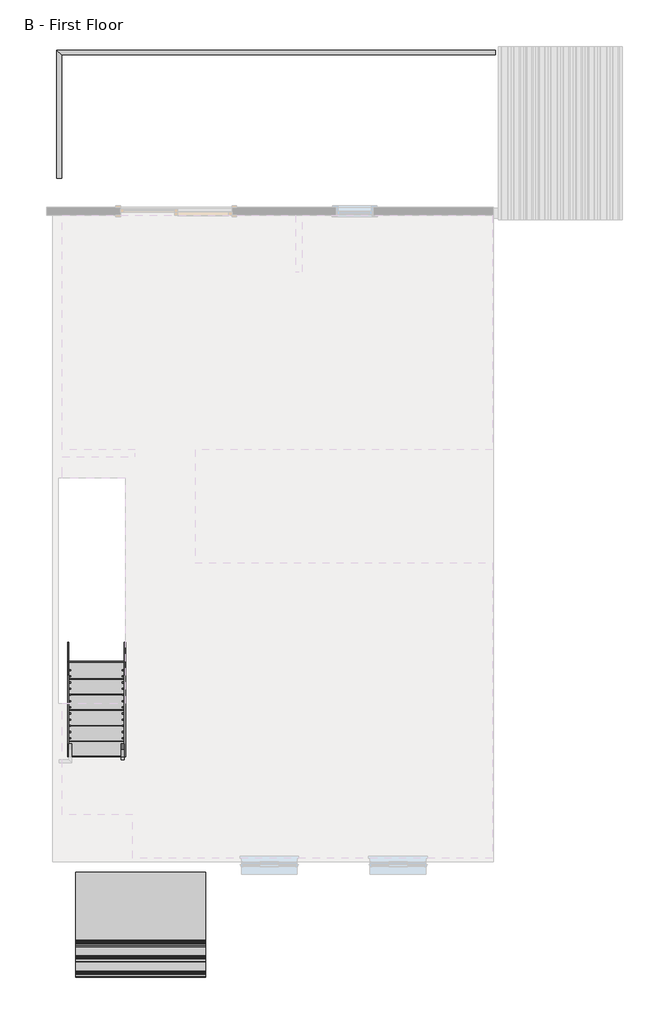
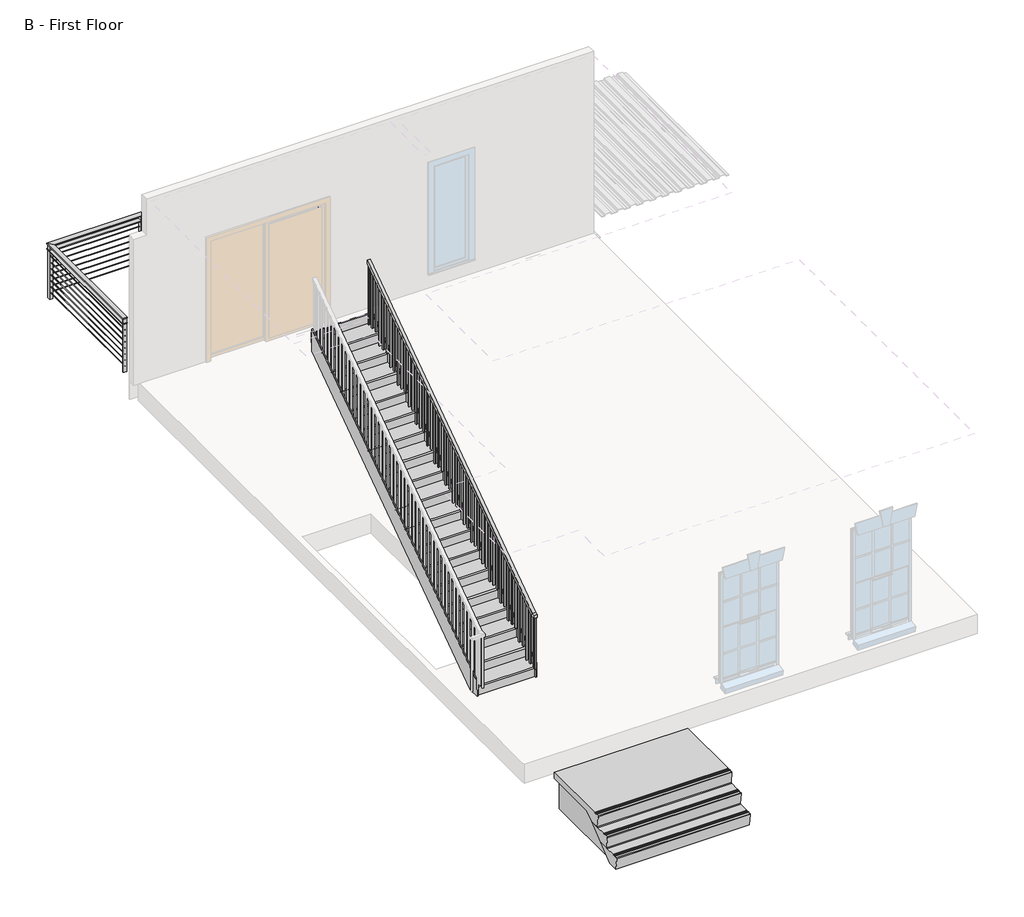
# One storey, part 2 of 2: 2 members, 2 railings, 1 proxy, 1 stair flight.
"""IFC4 building model written with IfcOpenShell, lengths in millimetres."""

from ifc_helpers import new_model, si_unit, frame, origin, place, context, project, spatial, polyline, circle_curve, ellipse_curve, outline, extrude, faceted_brep, transform, mapped, element, save
from ifc_brep_helpers import plane_surface, cylinder_surface, advanced_brep
from components import precast_porch_and_stair_11277_precast_porch_and_stair_11277_55bbf17a, stair_flight_afca3383

model = new_model("IFC4")

# Units and contexts
model_context = context("Model", 3, world=origin())
ifc_project = project(units=[si_unit("LENGTHUNIT", "METRE", prefix="MILLI")], contexts=[model_context])

# Site, building, storey
site = spatial("IfcSite", under=ifc_project)
building = spatial("IfcBuilding", under=site)
storey = spatial("IfcBuildingStorey", under=building, Name="B - First Floor", Elevation=609.6)

# Proxy
placement = place(None, origin())
precast_porch_and_stair_11277_precast_porch_and_stair_11277_shape = precast_porch_and_stair_11277_precast_porch_and_stair_11277_55bbf17a(model_context)
element("IfcBuildingElementProxy", 1, Name="Precast_Porch_and_Stair_11277 : Precast_Porch_and_Stair_11277", ObjectType="Precast_Porch_and_Stair_11277 : Precast_Porch_and_Stair_11277", at=placement, inside=storey, context=model_context, shape_type="MappedRepresentation", body=[
    mapped(precast_porch_and_stair_11277_precast_porch_and_stair_11277_shape, transform((-2607.4233509, -7354.5289462, -152.4), x_axis=(0.0, -1.0, 0.0), y_axis=(1.0, 0.0, 0.0), z_axis=(0.0, 0.0, 1.0))),
])

# Members
element("IfcMember", 2, ObjectType="Stringer - Paint - 3/4\" Width", at=placement, inside=storey, context=model_context, shape_type="SweptSolid", body=[
    extrude(outline(polyline([(-5459.0539462, 628.65), (-5459.0539462, 866.5557145), (-887.0539462, 4060.939925), (-887.0539462, 3689.1139533), (-5267.3790017, 628.65), (-5459.0539462, 628.65)])), frame((-3811.1129486, 0.0, 0.0), z_axis=(1.0, 0.0, 0.0), x_axis=(0.0, 1.0, 0.0)), (0.0, 0.0, 1.0), 19.05),
])
element("IfcMember", 3, ObjectType="Stringer - Paint - 3/4\" Width", at=placement, inside=storey, context=model_context, shape_type="SweptSolid", body=[
    extrude(outline(polyline([(-5459.0539462, 628.65), (-5459.0539462, 866.5557145), (-887.0539462, 4060.939925), (-887.0539462, 3689.1139533), (-5267.3790017, 628.65), (-5459.0539462, 628.65)])), frame((-2877.6629486, 0.0, 0.0), z_axis=(1.0, 0.0, 0.0), x_axis=(0.0, 1.0, 0.0)), (0.0, 0.0, 1.0), 19.05),
])

# Railings
element("IfcRailing", 4, ObjectType="36\"", at=placement, inside=storey, context=model_context, shape_type="SolidModel", body=[
    faceted_brep([(3214.9052966, 6066.1960538, 1308.1), (3214.9052966, 6066.1960538, 1295.4), (3214.9052966, 6142.3960538, 1295.4), (3214.9052966, 6142.3960538, 1308.1), (-3985.9947034, 6142.3960538, 1295.4), (-3985.9947034, 6142.3960538, 1308.1), (-3909.7947034, 6066.1960538, 1308.1), (-3909.7947034, 4040.5460538, 1308.1), (-3985.9947034, 4040.5460538, 1308.1), (-3985.9947034, 4040.5460538, 1295.4), (-3909.7947034, 4040.5460538, 1295.4), (-3909.7947034, 6066.1960538, 1295.4)], [[[0, 1, 2, 3]], [[3, 2, 4, 5]], [[0, 3, 5, 6]], [[7, 8, 9, 10]], [[5, 4, 9, 8]], [[6, 5, 8, 7]], [[1, 0, 6, 11]], [[2, 1, 11, 4]], [[11, 6, 7, 10]], [[4, 11, 10, 9]]]),
    faceted_brep([(3214.9052966, 6142.3960538, 1219.2), (3214.9052966, 6066.1960538, 1219.2), (3214.9052966, 6066.1960538, 1206.5), (3214.9052966, 6142.3960538, 1206.5), (-3985.9947034, 6142.3960538, 1219.2), (-3909.7947034, 6066.1960538, 1219.2), (-3909.7947034, 6066.1960538, 1206.5), (-3985.9947034, 4040.5460538, 1219.2), (-3985.9947034, 4040.5460538, 1206.5), (-3909.7947034, 4040.5460538, 1206.5), (-3909.7947034, 4040.5460538, 1219.2), (-3985.9947034, 6142.3960538, 1206.5)], [[[0, 1, 2, 3]], [[1, 0, 4, 5]], [[2, 1, 5, 6]], [[7, 8, 9, 10]], [[5, 4, 7, 10]], [[6, 5, 10, 9]], [[3, 2, 6, 11]], [[0, 3, 11, 4]], [[11, 6, 9, 8]], [[4, 11, 8, 7]]]),
    advanced_brep(
    [(3214.9052966, 6101.1210538, 1104.9), (3214.9052966, 6107.4710538, 1104.9), (-3944.7197034, 4040.5460538, 1104.9), (-3951.0697034, 4040.5460538, 1104.9), (-3944.7197034, 6101.1210538, 1104.9), (-3951.0697034, 6107.4710538, 1104.9)],
    [
        (0, 1, circle_curve(frame((3214.9052966, 6104.2960538, 1104.9), z_axis=(1.0, 0.0, 0.0), x_axis=(0.0, 1.0, 0.0)), 3.175)),
        (1, 0, circle_curve(frame((3214.9052966, 6104.2960538, 1104.9), z_axis=(1.0, 0.0, 0.0), x_axis=(0.0, 1.0, 0.0)), 3.175)),
        (2, 3, circle_curve(frame((-3947.8947034, 4040.5460538, 1104.9), z_axis=(0.0, -1.0, 0.0), x_axis=(-1.0, 0.0, 0.0)), 3.175)),
        (3, 2, circle_curve(frame((-3947.8947034, 4040.5460538, 1104.9), z_axis=(0.0, -1.0, 0.0), x_axis=(-1.0, 0.0, 0.0)), 3.175)),
        (0, 4),
        (4, 5, ellipse_curve(frame((-3947.8947034, 6104.2960538, 1104.9), z_axis=(0.7071067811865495, 0.7071067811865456, 0.0), x_axis=(0.7071067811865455, -0.7071067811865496, 0.0)), 4.4901281, 3.175)),
        (5, 1),
        (5, 4, ellipse_curve(frame((-3947.8947034, 6104.2960538, 1104.9), z_axis=(0.7071067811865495, 0.7071067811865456, 0.0), x_axis=(0.7071067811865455, -0.7071067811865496, 0.0)), 4.4901281, 3.175)),
        (4, 2),
        (3, 5),
    ],
    [
        plane_surface(frame((3214.9052966, 6104.2960538, 1104.9), z_axis=(1.0, 0.0, 0.0), x_axis=(0.0, -1.0, 0.0))),
        plane_surface(frame((-3947.8947034, 4040.5460538, 1104.9), z_axis=(0.0, -1.0, 0.0), x_axis=(0.0, 0.0, -1.0))),
        cylinder_surface(frame((3214.9052966, 6104.2960538, 1104.9), z_axis=(1.0, 0.0, 0.0), x_axis=(0.0, 1.0, 0.0)), 3.175),
        cylinder_surface(frame((-3947.8947034, 6104.2960538, 1104.9), z_axis=(0.0, 1.0, 0.0), x_axis=(-1.0, 0.0, 0.0)), 3.175),
    ],
    [
        (0, [[1, 2]]),
        (1, [[3, 4]]),
        (2, [[-1, 5, 6, 7]]),
        (2, [[-2, -7, 8, -5]]),
        (3, [[-6, 9, -4, 10]]),
        (3, [[-8, -10, -3, -9]]),
    ],
),
    advanced_brep(
    [(3214.9052966, 6101.1210538, 1003.3), (3214.9052966, 6107.4710538, 1003.3), (-3944.7197034, 6101.1210538, 1003.3), (-3951.0697034, 6107.4710538, 1003.3), (-3944.7197034, 4040.5460538, 1003.3), (-3951.0697034, 4040.5460538, 1003.3)],
    [
        (0, 1, circle_curve(frame((3214.9052966, 6104.2960538, 1003.3), z_axis=(1.0, 0.0, 0.0), x_axis=(0.0, 1.0, 0.0)), 3.175)),
        (1, 0, circle_curve(frame((3214.9052966, 6104.2960538, 1003.3), z_axis=(1.0, 0.0, 0.0), x_axis=(0.0, 1.0, 0.0)), 3.175)),
        (0, 2),
        (2, 3, ellipse_curve(frame((-3947.8947034, 6104.2960538, 1003.3), z_axis=(0.7071067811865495, 0.7071067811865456, 0.0), x_axis=(0.7071067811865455, -0.7071067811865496, 0.0)), 4.4901281, 3.175)),
        (3, 1),
        (3, 2, ellipse_curve(frame((-3947.8947034, 6104.2960538, 1003.3), z_axis=(0.7071067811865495, 0.7071067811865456, 0.0), x_axis=(0.7071067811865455, -0.7071067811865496, 0.0)), 4.4901281, 3.175)),
        (4, 5, circle_curve(frame((-3947.8947034, 4040.5460538, 1003.3), z_axis=(0.0, -1.0, 0.0), x_axis=(-1.0, 0.0, 0.0)), 3.175)),
        (5, 4, circle_curve(frame((-3947.8947034, 4040.5460538, 1003.3), z_axis=(0.0, -1.0, 0.0), x_axis=(-1.0, 0.0, 0.0)), 3.175)),
        (2, 4),
        (5, 3),
    ],
    [
        plane_surface(frame((3214.9052966, 6104.2960538, 1003.3), z_axis=(1.0, 0.0, 0.0), x_axis=(0.0, -1.0, 0.0))),
        cylinder_surface(frame((3214.9052966, 6104.2960538, 1003.3), z_axis=(1.0, 0.0, 0.0), x_axis=(0.0, 1.0, 0.0)), 3.175),
        plane_surface(frame((-3947.8947034, 4040.5460538, 1003.3), z_axis=(0.0, -1.0, 0.0), x_axis=(0.0, 0.0, -1.0))),
        cylinder_surface(frame((-3947.8947034, 6104.2960538, 1003.3), z_axis=(0.0, 1.0, 0.0), x_axis=(-1.0, 0.0, 0.0)), 3.175),
    ],
    [
        (0, [[1, 2]]),
        (1, [[-1, 3, 4, 5]]),
        (1, [[-2, -5, 6, -3]]),
        (2, [[7, 8]]),
        (3, [[-4, 9, -8, 10]]),
        (3, [[-6, -10, -7, -9]]),
    ],
),
    advanced_brep(
    [(3214.9052966, 6101.1210538, 901.7), (3214.9052966, 6107.4710538, 901.7), (-3944.7197034, 6101.1210538, 901.7), (-3951.0697034, 6107.4710538, 901.7), (-3944.7197034, 4040.5460538, 901.7), (-3951.0697034, 4040.5460538, 901.7)],
    [
        (0, 1, circle_curve(frame((3214.9052966, 6104.2960538, 901.7), z_axis=(1.0, 0.0, 0.0), x_axis=(0.0, 1.0, 0.0)), 3.175)),
        (1, 0, circle_curve(frame((3214.9052966, 6104.2960538, 901.7), z_axis=(1.0, 0.0, 0.0), x_axis=(0.0, 1.0, 0.0)), 3.175)),
        (0, 2),
        (2, 3, ellipse_curve(frame((-3947.8947034, 6104.2960538, 901.7), z_axis=(0.7071067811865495, 0.7071067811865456, 0.0), x_axis=(0.7071067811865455, -0.7071067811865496, 0.0)), 4.4901281, 3.175)),
        (3, 1),
        (3, 2, ellipse_curve(frame((-3947.8947034, 6104.2960538, 901.7), z_axis=(0.7071067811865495, 0.7071067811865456, 0.0), x_axis=(0.7071067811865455, -0.7071067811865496, 0.0)), 4.4901281, 3.175)),
        (4, 5, circle_curve(frame((-3947.8947034, 4040.5460538, 901.7), z_axis=(0.0, -1.0, 0.0), x_axis=(-1.0, 0.0, 0.0)), 3.175)),
        (5, 4, circle_curve(frame((-3947.8947034, 4040.5460538, 901.7), z_axis=(0.0, -1.0, 0.0), x_axis=(-1.0, 0.0, 0.0)), 3.175)),
        (2, 4),
        (5, 3),
    ],
    [
        plane_surface(frame((3214.9052966, 6104.2960538, 901.7), z_axis=(1.0, 0.0, 0.0), x_axis=(0.0, -1.0, 0.0))),
        cylinder_surface(frame((3214.9052966, 6104.2960538, 901.7), z_axis=(1.0, 0.0, 0.0), x_axis=(0.0, 1.0, 0.0)), 3.175),
        plane_surface(frame((-3947.8947034, 4040.5460538, 901.7), z_axis=(0.0, -1.0, 0.0), x_axis=(0.0, 0.0, -1.0))),
        cylinder_surface(frame((-3947.8947034, 6104.2960538, 901.7), z_axis=(0.0, 1.0, 0.0), x_axis=(-1.0, 0.0, 0.0)), 3.175),
    ],
    [
        (0, [[1, 2]]),
        (1, [[-1, 3, 4, 5]]),
        (1, [[-2, -5, 6, -3]]),
        (2, [[7, 8]]),
        (3, [[-4, 9, -8, 10]]),
        (3, [[-6, -10, -7, -9]]),
    ],
),
    advanced_brep(
    [(3214.9052966, 6101.1210538, 800.1), (3214.9052966, 6107.4710538, 800.1), (-3944.7197034, 6101.1210538, 800.1), (-3951.0697034, 6107.4710538, 800.1), (-3944.7197034, 4040.5460538, 800.1), (-3951.0697034, 4040.5460538, 800.1)],
    [
        (0, 1, circle_curve(frame((3214.9052966, 6104.2960538, 800.1), z_axis=(1.0, 0.0, 0.0), x_axis=(0.0, 1.0, 0.0)), 3.175)),
        (1, 0, circle_curve(frame((3214.9052966, 6104.2960538, 800.1), z_axis=(1.0, 0.0, 0.0), x_axis=(0.0, 1.0, 0.0)), 3.175)),
        (0, 2),
        (2, 3, ellipse_curve(frame((-3947.8947034, 6104.2960538, 800.1), z_axis=(0.7071067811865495, 0.7071067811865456, 0.0), x_axis=(0.7071067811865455, -0.7071067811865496, 0.0)), 4.4901281, 3.175)),
        (3, 1),
        (3, 2, ellipse_curve(frame((-3947.8947034, 6104.2960538, 800.1), z_axis=(0.7071067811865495, 0.7071067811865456, 0.0), x_axis=(0.7071067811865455, -0.7071067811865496, 0.0)), 4.4901281, 3.175)),
        (4, 5, circle_curve(frame((-3947.8947034, 4040.5460538, 800.1), z_axis=(0.0, -1.0, 0.0), x_axis=(-1.0, 0.0, 0.0)), 3.175)),
        (5, 4, circle_curve(frame((-3947.8947034, 4040.5460538, 800.1), z_axis=(0.0, -1.0, 0.0), x_axis=(-1.0, 0.0, 0.0)), 3.175)),
        (2, 4),
        (5, 3),
    ],
    [
        plane_surface(frame((3214.9052966, 6104.2960538, 800.1), z_axis=(1.0, 0.0, 0.0), x_axis=(0.0, -1.0, 0.0))),
        cylinder_surface(frame((3214.9052966, 6104.2960538, 800.1), z_axis=(1.0, 0.0, 0.0), x_axis=(0.0, 1.0, 0.0)), 3.175),
        plane_surface(frame((-3947.8947034, 4040.5460538, 800.1), z_axis=(0.0, -1.0, 0.0), x_axis=(0.0, 0.0, -1.0))),
        cylinder_surface(frame((-3947.8947034, 6104.2960538, 800.1), z_axis=(0.0, 1.0, 0.0), x_axis=(-1.0, 0.0, 0.0)), 3.175),
    ],
    [
        (0, [[1, 2]]),
        (1, [[-1, 3, 4, 5]]),
        (1, [[-2, -5, 6, -3]]),
        (2, [[7, 8]]),
        (3, [[-4, 9, -8, 10]]),
        (3, [[-6, -10, -7, -9]]),
    ],
),
    advanced_brep(
    [(3214.9052966, 6101.1210538, 698.5), (3214.9052966, 6107.4710538, 698.5), (-3944.7197034, 6101.1210538, 698.5), (-3951.0697034, 6107.4710538, 698.5), (-3944.7197034, 4040.5460538, 698.5), (-3951.0697034, 4040.5460538, 698.5)],
    [
        (0, 1, circle_curve(frame((3214.9052966, 6104.2960538, 698.5), z_axis=(1.0, 0.0, 0.0), x_axis=(0.0, 1.0, 0.0)), 3.175)),
        (1, 0, circle_curve(frame((3214.9052966, 6104.2960538, 698.5), z_axis=(1.0, 0.0, 0.0), x_axis=(0.0, 1.0, 0.0)), 3.175)),
        (0, 2),
        (2, 3, ellipse_curve(frame((-3947.8947034, 6104.2960538, 698.5), z_axis=(0.7071067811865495, 0.7071067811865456, 0.0), x_axis=(0.7071067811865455, -0.7071067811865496, 0.0)), 4.4901281, 3.175)),
        (3, 1),
        (3, 2, ellipse_curve(frame((-3947.8947034, 6104.2960538, 698.5), z_axis=(0.7071067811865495, 0.7071067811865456, 0.0), x_axis=(0.7071067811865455, -0.7071067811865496, 0.0)), 4.4901281, 3.175)),
        (4, 5, circle_curve(frame((-3947.8947034, 4040.5460538, 698.5), z_axis=(0.0, -1.0, 0.0), x_axis=(-1.0, 0.0, 0.0)), 3.175)),
        (5, 4, circle_curve(frame((-3947.8947034, 4040.5460538, 698.5), z_axis=(0.0, -1.0, 0.0), x_axis=(-1.0, 0.0, 0.0)), 3.175)),
        (2, 4),
        (5, 3),
    ],
    [
        plane_surface(frame((3214.9052966, 6104.2960538, 698.5), z_axis=(1.0, 0.0, 0.0), x_axis=(0.0, -1.0, 0.0))),
        cylinder_surface(frame((3214.9052966, 6104.2960538, 698.5), z_axis=(1.0, 0.0, 0.0), x_axis=(0.0, 1.0, 0.0)), 3.175),
        plane_surface(frame((-3947.8947034, 4040.5460538, 698.5), z_axis=(0.0, -1.0, 0.0), x_axis=(0.0, 0.0, -1.0))),
        cylinder_surface(frame((-3947.8947034, 6104.2960538, 698.5), z_axis=(0.0, 1.0, 0.0), x_axis=(-1.0, 0.0, 0.0)), 3.175),
    ],
    [
        (0, [[1, 2]]),
        (1, [[-1, 3, 4, 5]]),
        (1, [[-2, -5, 6, -3]]),
        (2, [[7, 8]]),
        (3, [[-4, 9, -8, 10]]),
        (3, [[-6, -10, -7, -9]]),
    ],
),
    advanced_brep(
    [(3214.9052966, 6101.1210538, 596.9), (3214.9052966, 6107.4710538, 596.9), (-3944.7197034, 6101.1210538, 596.9), (-3951.0697034, 6107.4710538, 596.9), (-3944.7197034, 4040.5460538, 596.9), (-3951.0697034, 4040.5460538, 596.9)],
    [
        (0, 1, circle_curve(frame((3214.9052966, 6104.2960538, 596.9), z_axis=(1.0, 0.0, 0.0), x_axis=(0.0, 1.0, 0.0)), 3.175)),
        (1, 0, circle_curve(frame((3214.9052966, 6104.2960538, 596.9), z_axis=(1.0, 0.0, 0.0), x_axis=(0.0, 1.0, 0.0)), 3.175)),
        (0, 2),
        (2, 3, ellipse_curve(frame((-3947.8947034, 6104.2960538, 596.9), z_axis=(0.7071067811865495, 0.7071067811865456, 0.0), x_axis=(0.7071067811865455, -0.7071067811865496, 0.0)), 4.4901281, 3.175)),
        (3, 1),
        (3, 2, ellipse_curve(frame((-3947.8947034, 6104.2960538, 596.9), z_axis=(0.7071067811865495, 0.7071067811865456, 0.0), x_axis=(0.7071067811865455, -0.7071067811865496, 0.0)), 4.4901281, 3.175)),
        (4, 5, circle_curve(frame((-3947.8947034, 4040.5460538, 596.9), z_axis=(0.0, -1.0, 0.0), x_axis=(-1.0, 0.0, 0.0)), 3.175)),
        (5, 4, circle_curve(frame((-3947.8947034, 4040.5460538, 596.9), z_axis=(0.0, -1.0, 0.0), x_axis=(-1.0, 0.0, 0.0)), 3.175)),
        (2, 4),
        (5, 3),
    ],
    [
        plane_surface(frame((3214.9052966, 6104.2960538, 596.9), z_axis=(1.0, 0.0, 0.0), x_axis=(0.0, -1.0, 0.0))),
        cylinder_surface(frame((3214.9052966, 6104.2960538, 596.9), z_axis=(1.0, 0.0, 0.0), x_axis=(0.0, 1.0, 0.0)), 3.175),
        plane_surface(frame((-3947.8947034, 4040.5460538, 596.9), z_axis=(0.0, -1.0, 0.0), x_axis=(0.0, 0.0, -1.0))),
        cylinder_surface(frame((-3947.8947034, 6104.2960538, 596.9), z_axis=(0.0, 1.0, 0.0), x_axis=(-1.0, 0.0, 0.0)), 3.175),
    ],
    [
        (0, [[1, 2]]),
        (1, [[-1, 3, 4, 5]]),
        (1, [[-2, -5, 6, -3]]),
        (2, [[7, 8]]),
        (3, [[-4, 9, -8, 10]]),
        (3, [[-6, -10, -7, -9]]),
    ],
),
    advanced_brep(
    [(3214.9052966, 6101.1210538, 495.3), (3214.9052966, 6107.4710538, 495.3), (-3944.7197034, 6101.1210538, 495.3), (-3951.0697034, 6107.4710538, 495.3), (-3944.7197034, 4040.5460538, 495.3), (-3951.0697034, 4040.5460538, 495.3)],
    [
        (0, 1, circle_curve(frame((3214.9052966, 6104.2960538, 495.3), z_axis=(1.0, 0.0, 0.0), x_axis=(0.0, 1.0, 0.0)), 3.175)),
        (1, 0, circle_curve(frame((3214.9052966, 6104.2960538, 495.3), z_axis=(1.0, 0.0, 0.0), x_axis=(0.0, 1.0, 0.0)), 3.175)),
        (0, 2),
        (2, 3, ellipse_curve(frame((-3947.8947034, 6104.2960538, 495.3), z_axis=(0.7071067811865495, 0.7071067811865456, 0.0), x_axis=(0.7071067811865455, -0.7071067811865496, 0.0)), 4.4901281, 3.175)),
        (3, 1),
        (3, 2, ellipse_curve(frame((-3947.8947034, 6104.2960538, 495.3), z_axis=(0.7071067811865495, 0.7071067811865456, 0.0), x_axis=(0.7071067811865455, -0.7071067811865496, 0.0)), 4.4901281, 3.175)),
        (4, 5, circle_curve(frame((-3947.8947034, 4040.5460538, 495.3), z_axis=(0.0, -1.0, 0.0), x_axis=(-1.0, 0.0, 0.0)), 3.175)),
        (5, 4, circle_curve(frame((-3947.8947034, 4040.5460538, 495.3), z_axis=(0.0, -1.0, 0.0), x_axis=(-1.0, 0.0, 0.0)), 3.175)),
        (2, 4),
        (5, 3),
    ],
    [
        plane_surface(frame((3214.9052966, 6104.2960538, 495.3), z_axis=(1.0, 0.0, 0.0), x_axis=(0.0, -1.0, 0.0))),
        cylinder_surface(frame((3214.9052966, 6104.2960538, 495.3), z_axis=(1.0, 0.0, 0.0), x_axis=(0.0, 1.0, 0.0)), 3.175),
        plane_surface(frame((-3947.8947034, 4040.5460538, 495.3), z_axis=(0.0, -1.0, 0.0), x_axis=(0.0, 0.0, -1.0))),
        cylinder_surface(frame((-3947.8947034, 6104.2960538, 495.3), z_axis=(0.0, 1.0, 0.0), x_axis=(-1.0, 0.0, 0.0)), 3.175),
    ],
    [
        (0, [[1, 2]]),
        (1, [[-1, 3, 4, 5]]),
        (1, [[-2, -5, 6, -3]]),
        (2, [[7, 8]]),
        (3, [[-4, 9, -8, 10]]),
        (3, [[-6, -10, -7, -9]]),
    ],
),
    extrude(outline(polyline([(-2521.6847034, 6078.8960538), (-2521.6847034, 6129.6960538), (-2508.9847034, 6129.6960538), (-2508.9847034, 6078.8960538), (-2521.6847034, 6078.8960538)])), frame((0.0, 0.0, 393.7), z_axis=(0.0, 0.0, 1.0), x_axis=(1.0, 0.0, 0.0)), (0.0, 0.0, 1.0), 812.8),
    extrude(outline(polyline([(-2521.6847034, 6078.8960538), (-2521.6847034, 6129.6960538), (-2508.9847034, 6129.6960538), (-2508.9847034, 6078.8960538), (-2521.6847034, 6078.8960538)])), frame((0.0, 0.0, 1219.2), z_axis=(0.0, 0.0, 1.0), x_axis=(1.0, 0.0, 0.0)), (0.0, 0.0, 1.0), 76.2),
    extrude(outline(polyline([(-1089.1247034, 6078.8960538), (-1089.1247034, 6129.6960538), (-1076.4247034, 6129.6960538), (-1076.4247034, 6078.8960538), (-1089.1247034, 6078.8960538)])), frame((0.0, 0.0, 393.7), z_axis=(0.0, 0.0, 1.0), x_axis=(1.0, 0.0, 0.0)), (0.0, 0.0, 1.0), 812.8),
    extrude(outline(polyline([(-1089.1247034, 6078.8960538), (-1089.1247034, 6129.6960538), (-1076.4247034, 6129.6960538), (-1076.4247034, 6078.8960538), (-1089.1247034, 6078.8960538)])), frame((0.0, 0.0, 1219.2), z_axis=(0.0, 0.0, 1.0), x_axis=(1.0, 0.0, 0.0)), (0.0, 0.0, 1.0), 76.2),
    extrude(outline(polyline([(343.4352966, 6078.8960538), (343.4352966, 6129.6960538), (356.1352966, 6129.6960538), (356.1352966, 6078.8960538), (343.4352966, 6078.8960538)])), frame((0.0, 0.0, 393.7), z_axis=(0.0, 0.0, 1.0), x_axis=(1.0, 0.0, 0.0)), (0.0, 0.0, 1.0), 812.8),
    extrude(outline(polyline([(343.4352966, 6078.8960538), (343.4352966, 6129.6960538), (356.1352966, 6129.6960538), (356.1352966, 6078.8960538), (343.4352966, 6078.8960538)])), frame((0.0, 0.0, 1219.2), z_axis=(0.0, 0.0, 1.0), x_axis=(1.0, 0.0, 0.0)), (0.0, 0.0, 1.0), 76.2),
    extrude(outline(polyline([(1775.9952966, 6078.8960538), (1775.9952966, 6129.6960538), (1788.6952966, 6129.6960538), (1788.6952966, 6078.8960538), (1775.9952966, 6078.8960538)])), frame((0.0, 0.0, 393.7), z_axis=(0.0, 0.0, 1.0), x_axis=(1.0, 0.0, 0.0)), (0.0, 0.0, 1.0), 812.8),
    extrude(outline(polyline([(1775.9952966, 6078.8960538), (1775.9952966, 6129.6960538), (1788.6952966, 6129.6960538), (1788.6952966, 6078.8960538), (1775.9952966, 6078.8960538)])), frame((0.0, 0.0, 1219.2), z_axis=(0.0, 0.0, 1.0), x_axis=(1.0, 0.0, 0.0)), (0.0, 0.0, 1.0), 76.2),
    extrude(outline(polyline([(-3973.2947034, 6078.8960538), (-3973.2947034, 6129.6960538), (-3922.4947034, 6129.6960538), (-3922.4947034, 6078.8960538), (-3973.2947034, 6078.8960538)])), frame((0.0, 0.0, 393.7), z_axis=(0.0, 0.0, 1.0), x_axis=(1.0, 0.0, 0.0)), (0.0, 0.0, 1.0), 812.8),
    extrude(outline(polyline([(-3973.2947034, 6078.8960538), (-3973.2947034, 6129.6960538), (-3922.4947034, 6129.6960538), (-3922.4947034, 6078.8960538), (-3973.2947034, 6078.8960538)])), frame((0.0, 0.0, 1219.2), z_axis=(0.0, 0.0, 1.0), x_axis=(1.0, 0.0, 0.0)), (0.0, 0.0, 1.0), 76.2),
    extrude(outline(polyline([(-3922.4947034, 4040.5460538), (-3973.2947034, 4040.5460538), (-3973.2947034, 4053.2460538), (-3922.4947034, 4053.2460538), (-3922.4947034, 4040.5460538)])), frame((0.0, 0.0, 393.7), z_axis=(0.0, 0.0, 1.0), x_axis=(1.0, 0.0, 0.0)), (0.0, 0.0, 1.0), 812.8),
    extrude(outline(polyline([(-3922.4947034, 4040.5460538), (-3973.2947034, 4040.5460538), (-3973.2947034, 4053.2460538), (-3922.4947034, 4053.2460538), (-3922.4947034, 4040.5460538)])), frame((0.0, 0.0, 1219.2), z_axis=(0.0, 0.0, 1.0), x_axis=(1.0, 0.0, 0.0)), (0.0, 0.0, 1.0), 76.2),
    extrude(outline(polyline([(3202.2052966, 6078.8960538), (3202.2052966, 6129.6960538), (3214.9052966, 6129.6960538), (3214.9052966, 6078.8960538), (3202.2052966, 6078.8960538)])), frame((0.0, 0.0, 393.7), z_axis=(0.0, 0.0, 1.0), x_axis=(1.0, 0.0, 0.0)), (0.0, 0.0, 1.0), 812.8),
    extrude(outline(polyline([(3202.2052966, 6078.8960538), (3202.2052966, 6129.6960538), (3214.9052966, 6129.6960538), (3214.9052966, 6078.8960538), (3202.2052966, 6078.8960538)])), frame((0.0, 0.0, 1219.2), z_axis=(0.0, 0.0, 1.0), x_axis=(1.0, 0.0, 0.0)), (0.0, 0.0, 1.0), 76.2),
])
element("IfcRailing", 5, ObjectType="Handrail - Rectangular", at=placement, inside=storey, context=model_context, shape_type="SolidModel", body=[
    faceted_brep([(-2928.4629486, -5509.8539462, 1720.5157895), (-2928.4629486, -5509.8539462, 1669.7157895), (-2877.6629486, -5509.8539462, 1669.7157895), (-2877.6629486, -5509.8539462, 1720.5157895), (-2928.4629486, -5459.0539462, 1720.5157895), (-2928.4629486, -5443.0653277, 1669.7157895), (-2877.6629486, -5443.0653277, 1669.7157895), (-2877.6629486, -5459.0539462, 1720.5157895), (-2928.4629486, -887.0539462, 4914.9), (-2877.6629486, -887.0539462, 4914.9), (-2877.6629486, -887.0539462, 4852.9290047), (-2928.4629486, -887.0539462, 4852.9290047)], [[[0, 1, 2, 3]], [[1, 0, 4, 5]], [[2, 1, 5, 6]], [[3, 2, 6, 7]], [[0, 3, 7, 4]], [[8, 9, 10, 11]], [[5, 4, 8, 11]], [[6, 5, 11, 10]], [[7, 6, 10, 9]], [[4, 7, 9, 8]]]),
    extrude(outline(polyline([(-998.1789462, 4775.2877218), (-979.1289462, 4788.597656), (-979.1289462, 3823.0342105), (-998.1789462, 3823.0342105), (-998.1789462, 4775.2877218)])), frame((-2912.5879486, 0.0, 0.0), z_axis=(1.0, 0.0, 0.0), x_axis=(0.0, 1.0, 0.0)), (0.0, 0.0, 1.0), 19.05),
    extrude(outline(polyline([(-1099.7789462, 4704.301406), (-1080.7289462, 4717.6113402), (-1080.7289462, 3823.0342105), (-1099.7789462, 3823.0342105), (-1099.7789462, 4704.301406)])), frame((-2912.5879486, 0.0, 0.0), z_axis=(1.0, 0.0, 0.0), x_axis=(0.0, 1.0, 0.0)), (0.0, 0.0, 1.0), 19.05),
    extrude(outline(polyline([(-1201.3789462, 4633.3150902), (-1182.3289462, 4646.6250244), (-1182.3289462, 3645.5684211), (-1201.3789462, 3645.5684211), (-1201.3789462, 4633.3150902)])), frame((-2912.5879486, 0.0, 0.0), z_axis=(1.0, 0.0, 0.0), x_axis=(0.0, 1.0, 0.0)), (0.0, 0.0, 1.0), 19.05),
    extrude(outline(polyline([(-1302.9789462, 4562.3287744), (-1283.9289462, 4575.6387087), (-1283.9289462, 3645.5684211), (-1302.9789462, 3645.5684211), (-1302.9789462, 4562.3287744)])), frame((-2912.5879486, 0.0, 0.0), z_axis=(1.0, 0.0, 0.0), x_axis=(0.0, 1.0, 0.0)), (0.0, 0.0, 1.0), 19.05),
    extrude(outline(polyline([(-1404.5789462, 4491.3424587), (-1385.5289462, 4504.6523929), (-1385.5289462, 3645.5684211), (-1404.5789462, 3645.5684211), (-1404.5789462, 4491.3424587)])), frame((-2912.5879486, 0.0, 0.0), z_axis=(1.0, 0.0, 0.0), x_axis=(0.0, 1.0, 0.0)), (0.0, 0.0, 1.0), 19.05),
    extrude(outline(polyline([(-1506.1789462, 4420.3561429), (-1487.1289462, 4433.6660771), (-1487.1289462, 3468.1026316), (-1506.1789462, 3468.1026316), (-1506.1789462, 4420.3561429)])), frame((-2912.5879486, 0.0, 0.0), z_axis=(1.0, 0.0, 0.0), x_axis=(0.0, 1.0, 0.0)), (0.0, 0.0, 1.0), 19.05),
    extrude(outline(polyline([(-1607.7789462, 4349.3698271), (-1588.7289462, 4362.6797613), (-1588.7289462, 3468.1026316), (-1607.7789462, 3468.1026316), (-1607.7789462, 4349.3698271)])), frame((-2912.5879486, 0.0, 0.0), z_axis=(1.0, 0.0, 0.0), x_axis=(0.0, 1.0, 0.0)), (0.0, 0.0, 1.0), 19.05),
    extrude(outline(polyline([(-1709.3789462, 4278.3835113), (-1690.3289462, 4291.6934455), (-1690.3289462, 3290.6368421), (-1709.3789462, 3290.6368421), (-1709.3789462, 4278.3835113)])), frame((-2912.5879486, 0.0, 0.0), z_axis=(1.0, 0.0, 0.0), x_axis=(0.0, 1.0, 0.0)), (0.0, 0.0, 1.0), 19.05),
    extrude(outline(polyline([(-1810.9789462, 4207.3971955), (-1791.9289462, 4220.7071297), (-1791.9289462, 3290.6368421), (-1810.9789462, 3290.6368421), (-1810.9789462, 4207.3971955)])), frame((-2912.5879486, 0.0, 0.0), z_axis=(1.0, 0.0, 0.0), x_axis=(0.0, 1.0, 0.0)), (0.0, 0.0, 1.0), 19.05),
    extrude(outline(polyline([(-1912.5789462, 4136.4108797), (-1893.5289462, 4149.7208139), (-1893.5289462, 3290.6368421), (-1912.5789462, 3290.6368421), (-1912.5789462, 4136.4108797)])), frame((-2912.5879486, 0.0, 0.0), z_axis=(1.0, 0.0, 0.0), x_axis=(0.0, 1.0, 0.0)), (0.0, 0.0, 1.0), 19.05),
    extrude(outline(polyline([(-2014.1789462, 4065.4245639), (-1995.1289462, 4078.7344981), (-1995.1289462, 3113.1710526), (-2014.1789462, 3113.1710526), (-2014.1789462, 4065.4245639)])), frame((-2912.5879486, 0.0, 0.0), z_axis=(1.0, 0.0, 0.0), x_axis=(0.0, 1.0, 0.0)), (0.0, 0.0, 1.0), 19.05),
    extrude(outline(polyline([(-2115.7789462, 3994.4382481), (-2096.7289462, 4007.7481823), (-2096.7289462, 3113.1710526), (-2115.7789462, 3113.1710526), (-2115.7789462, 3994.4382481)])), frame((-2912.5879486, 0.0, 0.0), z_axis=(1.0, 0.0, 0.0), x_axis=(0.0, 1.0, 0.0)), (0.0, 0.0, 1.0), 19.05),
    extrude(outline(polyline([(-2217.3789462, 3923.4519323), (-2198.3289462, 3936.7618666), (-2198.3289462, 2935.7052632), (-2217.3789462, 2935.7052632), (-2217.3789462, 3923.4519323)])), frame((-2912.5879486, 0.0, 0.0), z_axis=(1.0, 0.0, 0.0), x_axis=(0.0, 1.0, 0.0)), (0.0, 0.0, 1.0), 19.05),
    extrude(outline(polyline([(-2318.9789462, 3852.4656166), (-2299.9289462, 3865.7755508), (-2299.9289462, 2935.7052632), (-2318.9789462, 2935.7052632), (-2318.9789462, 3852.4656166)])), frame((-2912.5879486, 0.0, 0.0), z_axis=(1.0, 0.0, 0.0), x_axis=(0.0, 1.0, 0.0)), (0.0, 0.0, 1.0), 19.05),
    extrude(outline(polyline([(-2420.5789462, 3781.4793008), (-2401.5289462, 3794.789235), (-2401.5289462, 2935.7052632), (-2420.5789462, 2935.7052632), (-2420.5789462, 3781.4793008)])), frame((-2912.5879486, 0.0, 0.0), z_axis=(1.0, 0.0, 0.0), x_axis=(0.0, 1.0, 0.0)), (0.0, 0.0, 1.0), 19.05),
    extrude(outline(polyline([(-2522.1789462, 3710.492985), (-2503.1289462, 3723.8029192), (-2503.1289462, 2758.2394737), (-2522.1789462, 2758.2394737), (-2522.1789462, 3710.492985)])), frame((-2912.5879486, 0.0, 0.0), z_axis=(1.0, 0.0, 0.0), x_axis=(0.0, 1.0, 0.0)), (0.0, 0.0, 1.0), 19.05),
    extrude(outline(polyline([(-2623.7789462, 3639.5066692), (-2604.7289462, 3652.8166034), (-2604.7289462, 2758.2394737), (-2623.7789462, 2758.2394737), (-2623.7789462, 3639.5066692)])), frame((-2912.5879486, 0.0, 0.0), z_axis=(1.0, 0.0, 0.0), x_axis=(0.0, 1.0, 0.0)), (0.0, 0.0, 1.0), 19.05),
    extrude(outline(polyline([(-2725.3789462, 3568.5203534), (-2706.3289462, 3581.8302876), (-2706.3289462, 2580.7736842), (-2725.3789462, 2580.7736842), (-2725.3789462, 3568.5203534)])), frame((-2912.5879486, 0.0, 0.0), z_axis=(1.0, 0.0, 0.0), x_axis=(0.0, 1.0, 0.0)), (0.0, 0.0, 1.0), 19.05),
    extrude(outline(polyline([(-2826.9789462, 3497.5340376), (-2807.9289462, 3510.8439718), (-2807.9289462, 2580.7736842), (-2826.9789462, 2580.7736842), (-2826.9789462, 3497.5340376)])), frame((-2912.5879486, 0.0, 0.0), z_axis=(1.0, 0.0, 0.0), x_axis=(0.0, 1.0, 0.0)), (0.0, 0.0, 1.0), 19.05),
    extrude(outline(polyline([(-2928.5789462, 3426.5477218), (-2909.5289462, 3439.857656), (-2909.5289462, 2580.7736842), (-2928.5789462, 2580.7736842), (-2928.5789462, 3426.5477218)])), frame((-2912.5879486, 0.0, 0.0), z_axis=(1.0, 0.0, 0.0), x_axis=(0.0, 1.0, 0.0)), (0.0, 0.0, 1.0), 19.05),
    extrude(outline(polyline([(-3030.1789462, 3355.561406), (-3011.1289462, 3368.8713402), (-3011.1289462, 2403.3078947), (-3030.1789462, 2403.3078947), (-3030.1789462, 3355.561406)])), frame((-2912.5879486, 0.0, 0.0), z_axis=(1.0, 0.0, 0.0), x_axis=(0.0, 1.0, 0.0)), (0.0, 0.0, 1.0), 19.05),
    extrude(outline(polyline([(-3131.7789462, 3284.5750902), (-3112.7289462, 3297.8850244), (-3112.7289462, 2403.3078947), (-3131.7789462, 2403.3078947), (-3131.7789462, 3284.5750902)])), frame((-2912.5879486, 0.0, 0.0), z_axis=(1.0, 0.0, 0.0), x_axis=(0.0, 1.0, 0.0)), (0.0, 0.0, 1.0), 19.05),
    extrude(outline(polyline([(-3233.3789462, 3213.5887744), (-3214.3289462, 3226.8987087), (-3214.3289462, 2225.8421053), (-3233.3789462, 2225.8421053), (-3233.3789462, 3213.5887744)])), frame((-2912.5879486, 0.0, 0.0), z_axis=(1.0, 0.0, 0.0), x_axis=(0.0, 1.0, 0.0)), (0.0, 0.0, 1.0), 19.05),
    extrude(outline(polyline([(-3334.9789462, 3142.6024587), (-3315.9289462, 3155.9123929), (-3315.9289462, 2225.8421053), (-3334.9789462, 2225.8421053), (-3334.9789462, 3142.6024587)])), frame((-2912.5879486, 0.0, 0.0), z_axis=(1.0, 0.0, 0.0), x_axis=(0.0, 1.0, 0.0)), (0.0, 0.0, 1.0), 19.05),
    extrude(outline(polyline([(-3436.5789462, 3071.6161429), (-3417.5289462, 3084.9260771), (-3417.5289462, 2225.8421053), (-3436.5789462, 2225.8421053), (-3436.5789462, 3071.6161429)])), frame((-2912.5879486, 0.0, 0.0), z_axis=(1.0, 0.0, 0.0), x_axis=(0.0, 1.0, 0.0)), (0.0, 0.0, 1.0), 19.05),
    extrude(outline(polyline([(-3538.1789462, 3000.6298271), (-3519.1289462, 3013.9397613), (-3519.1289462, 2048.3763158), (-3538.1789462, 2048.3763158), (-3538.1789462, 3000.6298271)])), frame((-2912.5879486, 0.0, 0.0), z_axis=(1.0, 0.0, 0.0), x_axis=(0.0, 1.0, 0.0)), (0.0, 0.0, 1.0), 19.05),
    extrude(outline(polyline([(-3639.7789462, 2929.6435113), (-3620.7289462, 2942.9534455), (-3620.7289462, 2048.3763158), (-3639.7789462, 2048.3763158), (-3639.7789462, 2929.6435113)])), frame((-2912.5879486, 0.0, 0.0), z_axis=(1.0, 0.0, 0.0), x_axis=(0.0, 1.0, 0.0)), (0.0, 0.0, 1.0), 19.05),
    extrude(outline(polyline([(-3741.3789462, 2858.6571955), (-3722.3289462, 2871.9671297), (-3722.3289462, 1870.9105263), (-3741.3789462, 1870.9105263), (-3741.3789462, 2858.6571955)])), frame((-2912.5879486, 0.0, 0.0), z_axis=(1.0, 0.0, 0.0), x_axis=(0.0, 1.0, 0.0)), (0.0, 0.0, 1.0), 19.05),
    extrude(outline(polyline([(-3842.9789462, 2787.6708797), (-3823.9289462, 2800.9808139), (-3823.9289462, 1870.9105263), (-3842.9789462, 1870.9105263), (-3842.9789462, 2787.6708797)])), frame((-2912.5879486, 0.0, 0.0), z_axis=(1.0, 0.0, 0.0), x_axis=(0.0, 1.0, 0.0)), (0.0, 0.0, 1.0), 19.05),
    extrude(outline(polyline([(-3944.5789462, 2716.6845639), (-3925.5289462, 2729.9944981), (-3925.5289462, 1870.9105263), (-3944.5789462, 1870.9105263), (-3944.5789462, 2716.6845639)])), frame((-2912.5879486, 0.0, 0.0), z_axis=(1.0, 0.0, 0.0), x_axis=(0.0, 1.0, 0.0)), (0.0, 0.0, 1.0), 19.05),
    extrude(outline(polyline([(-4046.1789462, 2645.6982481), (-4027.1289462, 2659.0081823), (-4027.1289462, 1693.4447368), (-4046.1789462, 1693.4447368), (-4046.1789462, 2645.6982481)])), frame((-2912.5879486, 0.0, 0.0), z_axis=(1.0, 0.0, 0.0), x_axis=(0.0, 1.0, 0.0)), (0.0, 0.0, 1.0), 19.05),
    extrude(outline(polyline([(-4147.7789462, 2574.7119323), (-4128.7289462, 2588.0218666), (-4128.7289462, 1693.4447368), (-4147.7789462, 1693.4447368), (-4147.7789462, 2574.7119323)])), frame((-2912.5879486, 0.0, 0.0), z_axis=(1.0, 0.0, 0.0), x_axis=(0.0, 1.0, 0.0)), (0.0, 0.0, 1.0), 19.05),
    extrude(outline(polyline([(-4249.3789462, 2503.7256166), (-4230.3289462, 2517.0355508), (-4230.3289462, 1515.9789474), (-4249.3789462, 1515.9789474), (-4249.3789462, 2503.7256166)])), frame((-2912.5879486, 0.0, 0.0), z_axis=(1.0, 0.0, 0.0), x_axis=(0.0, 1.0, 0.0)), (0.0, 0.0, 1.0), 19.05),
    extrude(outline(polyline([(-4350.9789462, 2432.7393008), (-4331.9289462, 2446.049235), (-4331.9289462, 1515.9789474), (-4350.9789462, 1515.9789474), (-4350.9789462, 2432.7393008)])), frame((-2912.5879486, 0.0, 0.0), z_axis=(1.0, 0.0, 0.0), x_axis=(0.0, 1.0, 0.0)), (0.0, 0.0, 1.0), 19.05),
    extrude(outline(polyline([(-4452.5789462, 2361.752985), (-4433.5289462, 2375.0629192), (-4433.5289462, 1515.9789474), (-4452.5789462, 1515.9789474), (-4452.5789462, 2361.752985)])), frame((-2912.5879486, 0.0, 0.0), z_axis=(1.0, 0.0, 0.0), x_axis=(0.0, 1.0, 0.0)), (0.0, 0.0, 1.0), 19.05),
    extrude(outline(polyline([(-4554.1789462, 2290.7666692), (-4535.1289462, 2304.0766034), (-4535.1289462, 1338.5131579), (-4554.1789462, 1338.5131579), (-4554.1789462, 2290.7666692)])), frame((-2912.5879486, 0.0, 0.0), z_axis=(1.0, 0.0, 0.0), x_axis=(0.0, 1.0, 0.0)), (0.0, 0.0, 1.0), 19.05),
    extrude(outline(polyline([(-4655.7789462, 2219.7803534), (-4636.7289462, 2233.0902876), (-4636.7289462, 1338.5131579), (-4655.7789462, 1338.5131579), (-4655.7789462, 2219.7803534)])), frame((-2912.5879486, 0.0, 0.0), z_axis=(1.0, 0.0, 0.0), x_axis=(0.0, 1.0, 0.0)), (0.0, 0.0, 1.0), 19.05),
    extrude(outline(polyline([(-4757.3789462, 2148.7940376), (-4738.3289462, 2162.1039718), (-4738.3289462, 1161.0473684), (-4757.3789462, 1161.0473684), (-4757.3789462, 2148.7940376)])), frame((-2912.5879486, 0.0, 0.0), z_axis=(1.0, 0.0, 0.0), x_axis=(0.0, 1.0, 0.0)), (0.0, 0.0, 1.0), 19.05),
    extrude(outline(polyline([(-4858.9789462, 2077.8077218), (-4839.9289462, 2091.117656), (-4839.9289462, 1161.0473684), (-4858.9789462, 1161.0473684), (-4858.9789462, 2077.8077218)])), frame((-2912.5879486, 0.0, 0.0), z_axis=(1.0, 0.0, 0.0), x_axis=(0.0, 1.0, 0.0)), (0.0, 0.0, 1.0), 19.05),
    extrude(outline(polyline([(-4960.5789462, 2006.821406), (-4941.5289462, 2020.1313402), (-4941.5289462, 1161.0473684), (-4960.5789462, 1161.0473684), (-4960.5789462, 2006.821406)])), frame((-2912.5879486, 0.0, 0.0), z_axis=(1.0, 0.0, 0.0), x_axis=(0.0, 1.0, 0.0)), (0.0, 0.0, 1.0), 19.05),
    extrude(outline(polyline([(-5062.1789462, 1935.8350902), (-5043.1289462, 1949.1450244), (-5043.1289462, 983.5815789), (-5062.1789462, 983.5815789), (-5062.1789462, 1935.8350902)])), frame((-2912.5879486, 0.0, 0.0), z_axis=(1.0, 0.0, 0.0), x_axis=(0.0, 1.0, 0.0)), (0.0, 0.0, 1.0), 19.05),
    extrude(outline(polyline([(-5163.7789462, 1864.8487744), (-5144.7289462, 1878.1587087), (-5144.7289462, 983.5815789), (-5163.7789462, 983.5815789), (-5163.7789462, 1864.8487744)])), frame((-2912.5879486, 0.0, 0.0), z_axis=(1.0, 0.0, 0.0), x_axis=(0.0, 1.0, 0.0)), (0.0, 0.0, 1.0), 19.05),
    extrude(outline(polyline([(-5265.3789462, 1793.8624587), (-5246.3289462, 1807.1723929), (-5246.3289462, 806.1157895), (-5265.3789462, 806.1157895), (-5265.3789462, 1793.8624587)])), frame((-2912.5879486, 0.0, 0.0), z_axis=(1.0, 0.0, 0.0), x_axis=(0.0, 1.0, 0.0)), (0.0, 0.0, 1.0), 19.05),
    extrude(outline(polyline([(-5366.9789462, 1722.8761429), (-5347.9289462, 1736.1860771), (-5347.9289462, 806.1157895), (-5366.9789462, 806.1157895), (-5366.9789462, 1722.8761429)])), frame((-2912.5879486, 0.0, 0.0), z_axis=(1.0, 0.0, 0.0), x_axis=(0.0, 1.0, 0.0)), (0.0, 0.0, 1.0), 19.05),
    extrude(outline(polyline([(-2893.5379486, -5468.5789462), (-2912.5879486, -5468.5789462), (-2912.5879486, -5449.5289462), (-2893.5379486, -5449.5289462), (-2893.5379486, -5468.5789462)])), frame((0.0, 0.0, 806.1157895), z_axis=(0.0, 0.0, 1.0), x_axis=(1.0, 0.0, 0.0)), (0.0, 0.0, 1.0), 863.6),
    extrude(outline(polyline([(-906.1039462, 4839.6190705), (-887.0539462, 4852.9290047), (-887.0539462, 3823.0342105), (-906.1039462, 3823.0342105), (-906.1039462, 4839.6190705)])), frame((-2912.5879486, 0.0, 0.0), z_axis=(1.0, 0.0, 0.0), x_axis=(0.0, 1.0, 0.0)), (0.0, 0.0, 1.0), 19.05),
    extrude(outline(polyline([(-2893.5379486, -5509.8539462), (-2912.5879486, -5509.8539462), (-2912.5879486, -5490.8039462), (-2893.5379486, -5490.8039462), (-2893.5379486, -5509.8539462)])), frame((0.0, 0.0, 806.1157895), z_axis=(0.0, 0.0, 1.0), x_axis=(1.0, 0.0, 0.0)), (0.0, 0.0, 1.0), 863.6),
])

# Stair flight
stair_flight_shape = stair_flight_afca3383(model_context)
element("IfcStairFlight", 6, ObjectType="Wood Steps with 1\" Front Nosing", at=placement, inside=storey, context=model_context, shape_type="MappedRepresentation", body=[
    mapped(stair_flight_shape, transform((0.0, 0.0, 0.0), x_axis=(1.0, 0.0, 0.0), y_axis=(0.0, 1.0, 0.0), z_axis=(0.0, 0.0, 1.0))),
])

save(model, "model.ifc")
